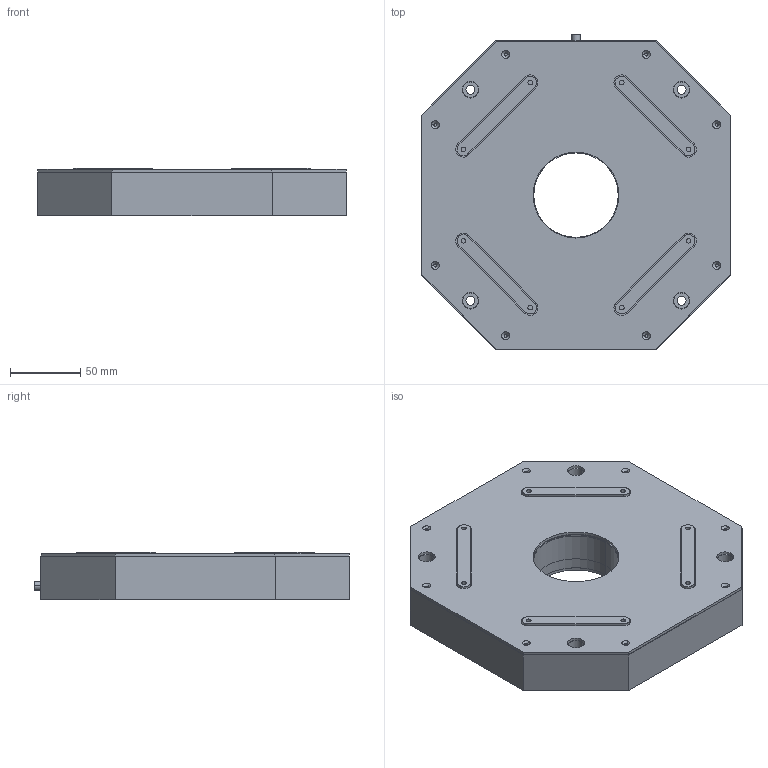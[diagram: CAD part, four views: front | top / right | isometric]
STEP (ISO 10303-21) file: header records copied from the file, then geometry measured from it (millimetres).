
FILE_DESCRIPTION (( 'STEP AP214' ), '1' );
FILE_NAME ('H30.XY100R2K-B1外形三维-23.07.17.STEP', '2023-07-17T00:41:34', ( 'Windows User' ), ( 'P R C' ), 'SwSTEP 2.0', 'SolidWorks 2016', '' );
FILE_SCHEMA (( 'AUTOMOTIVE_DESIGN' ));
Length unit declared in the file: millimetre
Products named in the file (1): H30.XY100R2K-B1外形三维-23.07.17
Bounding box: 220 x 224.5 x 34 mm (x, y, z)
Surface area: 236144.4 mm2 (no closed solid volume)
Topology: 0 solids, 5 shells, 222 faces, 716 edges, 502 vertices
Faces by surface type: cylinder 146, plane 44, cone 32
Entity records: 10603 total; most frequent: DIRECTION 1564, CARTESIAN_POINT 1441, ORIENTED_EDGE 1170, EDGE_CURVE 716, AXIS2_PLACEMENT_3D 625, VERTEX_POINT 502, CIRCLE 402, EDGE_LOOP 319
